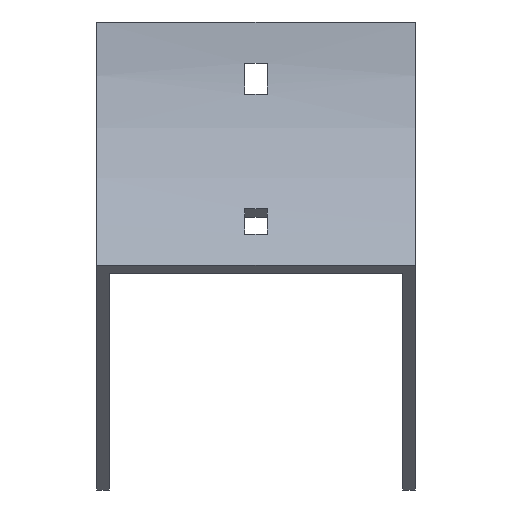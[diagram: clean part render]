
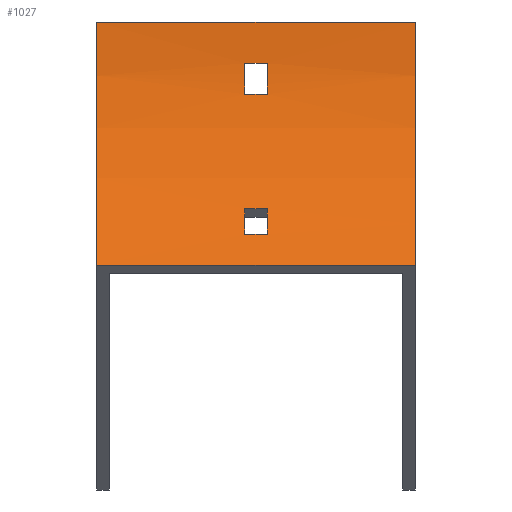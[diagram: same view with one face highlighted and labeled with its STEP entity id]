
A CAD part, front view. The second image highlights one B-rep face of the part: STEP entity #1027.
In plain terms, the highlighted cylindrical face has radius 100 mm (diameter 200 mm), a partial arc.
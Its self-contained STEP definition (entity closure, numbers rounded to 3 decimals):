
#1 = VECTOR ( 'NONE', #821, 1000. ) ;
#25 = CARTESIAN_POINT ( 'NONE',  ( 46.25, -16.017, -54.285 ) ) ;
#28 = LINE ( 'NONE', #557, #1 ) ;
#29 = EDGE_CURVE ( 'NONE', #53, #160, #1429, .T. ) ;
#33 = VECTOR ( 'NONE', #745, 1000. ) ;
#49 = CARTESIAN_POINT ( 'NONE',  ( 46.25, -100., 0. ) ) ;
#53 = VERTEX_POINT ( 'NONE', #287 ) ;
#56 = DIRECTION ( 'NONE',  ( 0., 0., -1. ) ) ;
#60 = EDGE_CURVE ( 'NONE', #1380, #1147, #424, .T. ) ;
#70 = DIRECTION ( 'NONE',  ( 0., 0., 1. ) ) ;
#129 = AXIS2_PLACEMENT_3D ( 'NONE', #808, #137, #70 ) ;
#135 = EDGE_LOOP ( 'NONE', ( #1053, #1320, #952, #913 ) ) ;
#137 = DIRECTION ( 'NONE',  ( 1., 0., 0. ) ) ;
#139 = EDGE_CURVE ( 'NONE', #1258, #1418, #1195, .T. ) ;
#160 = VERTEX_POINT ( 'NONE', #822 ) ;
#173 = DIRECTION ( 'NONE',  ( 0., 0., 1. ) ) ;
#211 = LINE ( 'NONE', #709, #33 ) ;
#221 = DIRECTION ( 'NONE',  ( 0., 0., 1. ) ) ;
#285 = CARTESIAN_POINT ( 'NONE',  ( 3.25, -2.23, -21. ) ) ;
#287 = CARTESIAN_POINT ( 'NONE',  ( 46.25, 0., 0. ) ) ;
#290 = CARTESIAN_POINT ( 'NONE',  ( -3.25, -21.315, -61.714 ) ) ;
#295 = CIRCLE ( 'NONE', #514, 100. ) ;
#297 = CIRCLE ( 'NONE', #1306, 100. ) ;
#314 = EDGE_CURVE ( 'NONE', #160, #1147, #295, .T. ) ;
#319 = AXIS2_PLACEMENT_3D ( 'NONE', #1174, #1442, #1189 ) ;
#329 = ORIENTED_EDGE ( 'NONE', *, *, #755, .F. ) ;
#338 = EDGE_CURVE ( 'NONE', #697, #723, #211, .T. ) ;
#357 = EDGE_CURVE ( 'NONE', #1255, #697, #859, .T. ) ;
#374 = CARTESIAN_POINT ( 'NONE',  ( -3.25, -0.723, -12. ) ) ;
#409 = DIRECTION ( 'NONE',  ( -1., 0., 0. ) ) ;
#419 = CARTESIAN_POINT ( 'NONE',  ( 3.25, -100., 0. ) ) ;
#424 = LINE ( 'NONE', #1073, #888 ) ;
#430 = DIRECTION ( 'NONE',  ( -1., 0., 0. ) ) ;
#433 = DIRECTION ( 'NONE',  ( 1., 0., 0. ) ) ;
#461 = ORIENTED_EDGE ( 'NONE', *, *, #1451, .T. ) ;
#514 = AXIS2_PLACEMENT_3D ( 'NONE', #726, #836, #221 ) ;
#557 = CARTESIAN_POINT ( 'NONE',  ( 46.25, -0.723, -12. ) ) ;
#582 = VECTOR ( 'NONE', #1308, 1000. ) ;
#626 = CARTESIAN_POINT ( 'NONE',  ( -3.25, -16.017, -54.285 ) ) ;
#639 = ORIENTED_EDGE ( 'NONE', *, *, #29, .T. ) ;
#650 = CYLINDRICAL_SURFACE ( 'NONE', #319, 100. ) ;
#682 = LINE ( 'NONE', #25, #1057 ) ;
#688 = DIRECTION ( 'NONE',  ( -1., 0., 0. ) ) ;
#691 = EDGE_CURVE ( 'NONE', #1418, #1292, #905, .T. ) ;
#697 = VERTEX_POINT ( 'NONE', #285 ) ;
#709 = CARTESIAN_POINT ( 'NONE',  ( 46.25, -2.23, -21. ) ) ;
#718 = CARTESIAN_POINT ( 'NONE',  ( 3.25, -100., 0. ) ) ;
#723 = VERTEX_POINT ( 'NONE', #1229 ) ;
#726 = CARTESIAN_POINT ( 'NONE',  ( -46.25, -100., 0. ) ) ;
#745 = DIRECTION ( 'NONE',  ( -1., 0., 0. ) ) ;
#755 = EDGE_CURVE ( 'NONE', #53, #1380, #1505, .T. ) ;
#770 = FACE_BOUND ( 'NONE', #771, .T. ) ;
#771 = EDGE_LOOP ( 'NONE', ( #884, #461, #1386, #1267 ) ) ;
#777 = FACE_BOUND ( 'NONE', #135, .T. ) ;
#783 = VERTEX_POINT ( 'NONE', #1238 ) ;
#787 = CARTESIAN_POINT ( 'NONE',  ( 46.25, -21.315, -61.714 ) ) ;
#790 = DIRECTION ( 'NONE',  ( -1., 0., 0. ) ) ;
#808 = CARTESIAN_POINT ( 'NONE',  ( -3.25, -100., 0. ) ) ;
#817 = EDGE_CURVE ( 'NONE', #984, #1255, #28, .T. ) ;
#821 = DIRECTION ( 'NONE',  ( 1., 0., 0. ) ) ;
#822 = CARTESIAN_POINT ( 'NONE',  ( -46.25, 0., 0. ) ) ;
#836 = DIRECTION ( 'NONE',  ( -1., 0., 0. ) ) ;
#859 = CIRCLE ( 'NONE', #1214, 100. ) ;
#870 = EDGE_LOOP ( 'NONE', ( #1328, #1091, #329, #639 ) ) ;
#884 = ORIENTED_EDGE ( 'NONE', *, *, #338, .T. ) ;
#888 = VECTOR ( 'NONE', #409, 1000. ) ;
#905 = LINE ( 'NONE', #787, #582 ) ;
#908 = FACE_OUTER_BOUND ( 'NONE', #870, .T. ) ;
#913 = ORIENTED_EDGE ( 'NONE', *, *, #691, .F. ) ;
#949 = DIRECTION ( 'NONE',  ( 0., 0., 1. ) ) ;
#951 = DIRECTION ( 'NONE',  ( 0., 0., -1. ) ) ;
#952 = ORIENTED_EDGE ( 'NONE', *, *, #1422, .F. ) ;
#984 = VERTEX_POINT ( 'NONE', #374 ) ;
#1027 = ADVANCED_FACE ( 'NONE', ( #908, #770, #777 ), #650, .F. ) ;
#1053 = ORIENTED_EDGE ( 'NONE', *, *, #139, .F. ) ;
#1057 = VECTOR ( 'NONE', #688, 1000. ) ;
#1073 = CARTESIAN_POINT ( 'NONE',  ( 46.25, -29.289, -70.711 ) ) ;
#1091 = ORIENTED_EDGE ( 'NONE', *, *, #60, .F. ) ;
#1095 = DIRECTION ( 'NONE',  ( -1., 0., 0. ) ) ;
#1120 = CARTESIAN_POINT ( 'NONE',  ( 3.25, -21.315, -61.714 ) ) ;
#1125 = EDGE_CURVE ( 'NONE', #783, #1258, #682, .T. ) ;
#1147 = VERTEX_POINT ( 'NONE', #1585 ) ;
#1173 = CIRCLE ( 'NONE', #129, 100. ) ;
#1174 = CARTESIAN_POINT ( 'NONE',  ( 46.25, -100., 0. ) ) ;
#1189 = DIRECTION ( 'NONE',  ( 0., 0., 1. ) ) ;
#1195 = CIRCLE ( 'NONE', #1630, 100. ) ;
#1214 = AXIS2_PLACEMENT_3D ( 'NONE', #718, #1631, #56 ) ;
#1229 = CARTESIAN_POINT ( 'NONE',  ( -3.25, -2.23, -21. ) ) ;
#1238 = CARTESIAN_POINT ( 'NONE',  ( 3.25, -16.017, -54.285 ) ) ;
#1255 = VERTEX_POINT ( 'NONE', #1506 ) ;
#1258 = VERTEX_POINT ( 'NONE', #626 ) ;
#1267 = ORIENTED_EDGE ( 'NONE', *, *, #357, .T. ) ;
#1292 = VERTEX_POINT ( 'NONE', #1120 ) ;
#1306 = AXIS2_PLACEMENT_3D ( 'NONE', #419, #433, #173 ) ;
#1308 = DIRECTION ( 'NONE',  ( 1., 0., 0. ) ) ;
#1310 = CARTESIAN_POINT ( 'NONE',  ( 46.25, 0., 0. ) ) ;
#1320 = ORIENTED_EDGE ( 'NONE', *, *, #1125, .F. ) ;
#1328 = ORIENTED_EDGE ( 'NONE', *, *, #314, .T. ) ;
#1380 = VERTEX_POINT ( 'NONE', #1406 ) ;
#1386 = ORIENTED_EDGE ( 'NONE', *, *, #817, .T. ) ;
#1400 = AXIS2_PLACEMENT_3D ( 'NONE', #49, #1095, #949 ) ;
#1406 = CARTESIAN_POINT ( 'NONE',  ( 46.25, -29.289, -70.711 ) ) ;
#1418 = VERTEX_POINT ( 'NONE', #290 ) ;
#1422 = EDGE_CURVE ( 'NONE', #1292, #783, #297, .T. ) ;
#1429 = LINE ( 'NONE', #1310, #1615 ) ;
#1442 = DIRECTION ( 'NONE',  ( -1., 0., 0. ) ) ;
#1451 = EDGE_CURVE ( 'NONE', #723, #984, #1173, .T. ) ;
#1505 = CIRCLE ( 'NONE', #1400, 100. ) ;
#1506 = CARTESIAN_POINT ( 'NONE',  ( 3.25, -0.723, -12. ) ) ;
#1575 = CARTESIAN_POINT ( 'NONE',  ( -3.25, -100., 0. ) ) ;
#1585 = CARTESIAN_POINT ( 'NONE',  ( -46.25, -29.289, -70.711 ) ) ;
#1615 = VECTOR ( 'NONE', #790, 1000. ) ;
#1630 = AXIS2_PLACEMENT_3D ( 'NONE', #1575, #430, #951 ) ;
#1631 = DIRECTION ( 'NONE',  ( -1., 0., 0. ) ) ;
